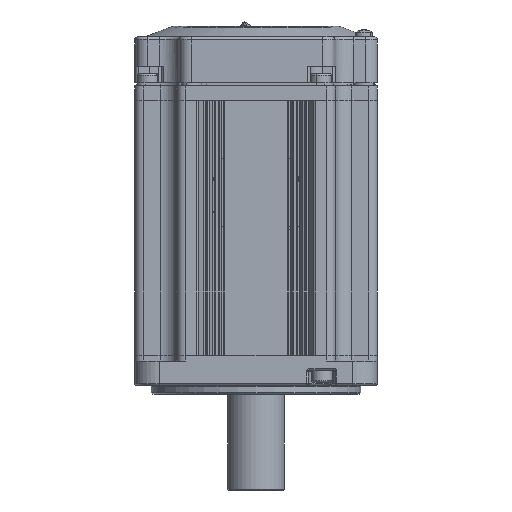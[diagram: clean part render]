
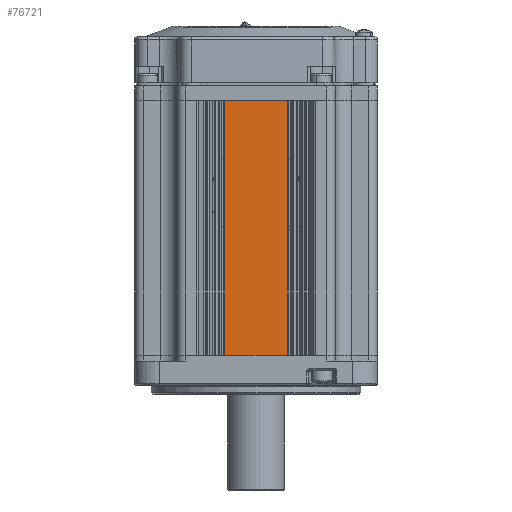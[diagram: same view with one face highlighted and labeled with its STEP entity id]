
A CAD part, front view. The second image highlights one B-rep face of the part: STEP entity #76721.
In plain terms, the highlighted planar face has unit normal (0, -1, 0).
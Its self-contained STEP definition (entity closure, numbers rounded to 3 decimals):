
#596 = EDGE_CURVE ( 'NONE', #92507, #56977, #114492, .T. ) ;
#2471 = EDGE_CURVE ( 'NONE', #78923, #89266, #8038, .T. ) ;
#2654 = VECTOR ( 'NONE', #75805, 1000. ) ;
#8038 = LINE ( 'NONE', #27182, #62660 ) ;
#15186 = CARTESIAN_POINT ( 'NONE',  ( 53.845, -81., 94.8 ) ) ;
#17036 = ORIENTED_EDGE ( 'NONE', *, *, #36202, .F. ) ;
#17914 = DIRECTION ( 'NONE',  ( 1., 0., 0. ) ) ;
#18911 = CARTESIAN_POINT ( 'NONE',  ( 32.845, -81., 94.8 ) ) ;
#23161 = FACE_OUTER_BOUND ( 'NONE', #58858, .T. ) ;
#24726 = VECTOR ( 'NONE', #115054, 1000. ) ;
#26241 = CARTESIAN_POINT ( 'NONE',  ( 32.845, -81., 94.8 ) ) ;
#27182 = CARTESIAN_POINT ( 'NONE',  ( 19.845, -81., 94.8 ) ) ;
#27366 = ORIENTED_EDGE ( 'NONE', *, *, #2471, .F. ) ;
#31846 = DIRECTION ( 'NONE',  ( 0., 0., 1. ) ) ;
#36202 = EDGE_CURVE ( 'NONE', #89266, #56977, #92739, .T. ) ;
#39447 = DIRECTION ( 'NONE',  ( 0., -1., 0. ) ) ;
#40276 = VECTOR ( 'NONE', #54452, 1000. ) ;
#40574 = CARTESIAN_POINT ( 'NONE',  ( 19.845, -81., 10. ) ) ;
#44447 = CARTESIAN_POINT ( 'NONE',  ( 19.845, -81., 10. ) ) ;
#45265 = ORIENTED_EDGE ( 'NONE', *, *, #596, .T. ) ;
#47977 = CARTESIAN_POINT ( 'NONE',  ( 32.845, -81., 10. ) ) ;
#53309 = AXIS2_PLACEMENT_3D ( 'NONE', #40574, #39447, #31846 ) ;
#54452 = DIRECTION ( 'NONE',  ( 0., 0., -1. ) ) ;
#56977 = VERTEX_POINT ( 'NONE', #59043 ) ;
#58858 = EDGE_LOOP ( 'NONE', ( #17036, #27366, #86798, #45265 ) ) ;
#59043 = CARTESIAN_POINT ( 'NONE',  ( 53.845, -81., 10. ) ) ;
#62660 = VECTOR ( 'NONE', #17914, 1000. ) ;
#74685 = CARTESIAN_POINT ( 'NONE',  ( 53.845, -81., 94.8 ) ) ;
#75805 = DIRECTION ( 'NONE',  ( 0., 0., -1. ) ) ;
#76721 = ADVANCED_FACE ( 'NONE', ( #23161 ), #93655, .T. ) ;
#77509 = EDGE_CURVE ( 'NONE', #78923, #92507, #107533, .T. ) ;
#78923 = VERTEX_POINT ( 'NONE', #26241 ) ;
#86798 = ORIENTED_EDGE ( 'NONE', *, *, #77509, .T. ) ;
#89266 = VERTEX_POINT ( 'NONE', #15186 ) ;
#92507 = VERTEX_POINT ( 'NONE', #47977 ) ;
#92739 = LINE ( 'NONE', #74685, #2654 ) ;
#93655 = PLANE ( 'NONE',  #53309 ) ;
#107533 = LINE ( 'NONE', #18911, #40276 ) ;
#114492 = LINE ( 'NONE', #44447, #24726 ) ;
#115054 = DIRECTION ( 'NONE',  ( 1., 0., 0. ) ) ;
